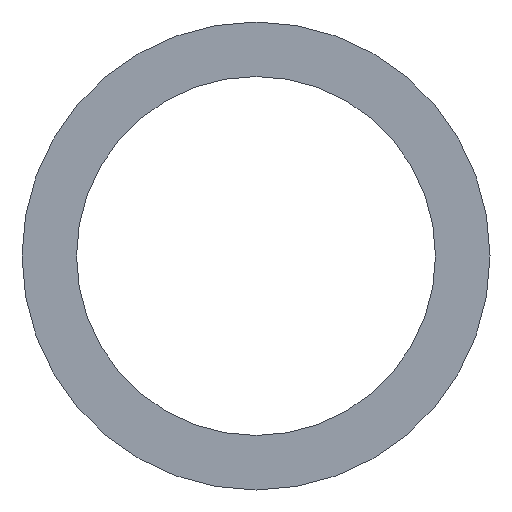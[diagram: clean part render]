
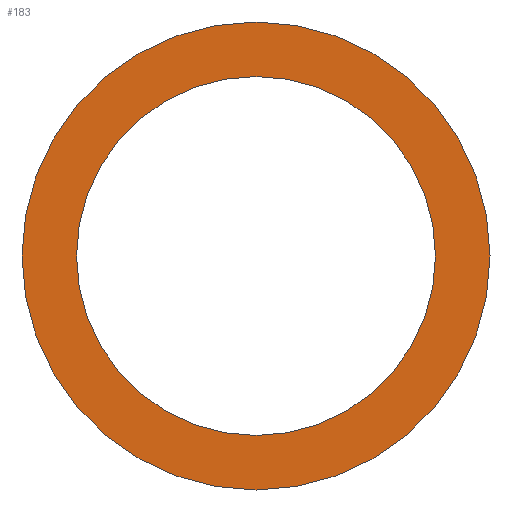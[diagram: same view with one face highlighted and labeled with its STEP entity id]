
A CAD part, left-side view. The second image highlights one B-rep face of the part: STEP entity #183.
In plain terms, the highlighted planar face has unit normal (-1, 0, 0).
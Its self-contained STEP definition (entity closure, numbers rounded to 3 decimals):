
#22 = VERTEX_POINT('',#23);
#23 = CARTESIAN_POINT('',(24.31,8.8,0.));
#32 = CYLINDRICAL_SURFACE('',#33,8.8);
#33 = AXIS2_PLACEMENT_3D('',#34,#35,#36);
#34 = CARTESIAN_POINT('',(24.31,0.,0.));
#35 = DIRECTION('',(-1.,-0.,-0.));
#36 = DIRECTION('',(0.,1.,0.));
#79 = EDGE_CURVE('',#22,#22,#80,.T.);
#80 = SURFACE_CURVE('',#81,(#86,#93),.PCURVE_S1.);
#81 = CIRCLE('',#82,8.8);
#82 = AXIS2_PLACEMENT_3D('',#83,#84,#85);
#83 = CARTESIAN_POINT('',(24.31,0.,0.));
#84 = DIRECTION('',(1.,0.,0.));
#85 = DIRECTION('',(0.,1.,0.));
#86 = PCURVE('',#32,#87);
#87 = DEFINITIONAL_REPRESENTATION('',(#88),#92);
#88 = LINE('',#89,#90);
#89 = CARTESIAN_POINT('',(-0.,0.));
#90 = VECTOR('',#91,1.);
#91 = DIRECTION('',(-1.,0.));
#92 = ( GEOMETRIC_REPRESENTATION_CONTEXT(2) 
PARAMETRIC_REPRESENTATION_CONTEXT() REPRESENTATION_CONTEXT('2D SPACE',''
  ) );
#93 = PCURVE('',#94,#99);
#94 = PLANE('',#95);
#95 = AXIS2_PLACEMENT_3D('',#96,#97,#98);
#96 = CARTESIAN_POINT('',(24.31,0.,0.)
  );
#97 = DIRECTION('',(1.,0.,0.));
#98 = DIRECTION('',(-0.,0.,1.));
#99 = DEFINITIONAL_REPRESENTATION('',(#100),#104);
#100 = CIRCLE('',#101,8.8);
#101 = AXIS2_PLACEMENT_2D('',#102,#103);
#102 = CARTESIAN_POINT('',(0.,0.));
#103 = DIRECTION('',(0.,-1.));
#104 = ( GEOMETRIC_REPRESENTATION_CONTEXT(2) 
PARAMETRIC_REPRESENTATION_CONTEXT() REPRESENTATION_CONTEXT('2D SPACE',''
  ) );
#110 = VERTEX_POINT('',#111);
#111 = CARTESIAN_POINT('',(24.31,6.75,0.));
#120 = CYLINDRICAL_SURFACE('',#121,6.75);
#121 = AXIS2_PLACEMENT_3D('',#122,#123,#124);
#122 = CARTESIAN_POINT('',(24.31,0.,0.));
#123 = DIRECTION('',(-1.,-0.,-0.));
#124 = DIRECTION('',(0.,1.,0.));
#162 = EDGE_CURVE('',#110,#110,#163,.T.);
#163 = SURFACE_CURVE('',#164,(#169,#176),.PCURVE_S1.);
#164 = CIRCLE('',#165,6.75);
#165 = AXIS2_PLACEMENT_3D('',#166,#167,#168);
#166 = CARTESIAN_POINT('',(24.31,0.,0.));
#167 = DIRECTION('',(1.,0.,0.));
#168 = DIRECTION('',(0.,1.,0.));
#169 = PCURVE('',#120,#170);
#170 = DEFINITIONAL_REPRESENTATION('',(#171),#175);
#171 = LINE('',#172,#173);
#172 = CARTESIAN_POINT('',(-0.,0.));
#173 = VECTOR('',#174,1.);
#174 = DIRECTION('',(-1.,0.));
#175 = ( GEOMETRIC_REPRESENTATION_CONTEXT(2) 
PARAMETRIC_REPRESENTATION_CONTEXT() REPRESENTATION_CONTEXT('2D SPACE',''
  ) );
#176 = PCURVE('',#94,#177);
#177 = DEFINITIONAL_REPRESENTATION('',(#178),#182);
#178 = CIRCLE('',#179,6.75);
#179 = AXIS2_PLACEMENT_2D('',#180,#181);
#180 = CARTESIAN_POINT('',(0.,0.));
#181 = DIRECTION('',(0.,-1.));
#182 = ( GEOMETRIC_REPRESENTATION_CONTEXT(2) 
PARAMETRIC_REPRESENTATION_CONTEXT() REPRESENTATION_CONTEXT('2D SPACE',''
  ) );
#183 = ADVANCED_FACE('',(#184,#187),#94,.F.);
#184 = FACE_BOUND('',#185,.F.);
#185 = EDGE_LOOP('',(#186));
#186 = ORIENTED_EDGE('',*,*,#79,.T.);
#187 = FACE_BOUND('',#188,.F.);
#188 = EDGE_LOOP('',(#189));
#189 = ORIENTED_EDGE('',*,*,#162,.F.);
